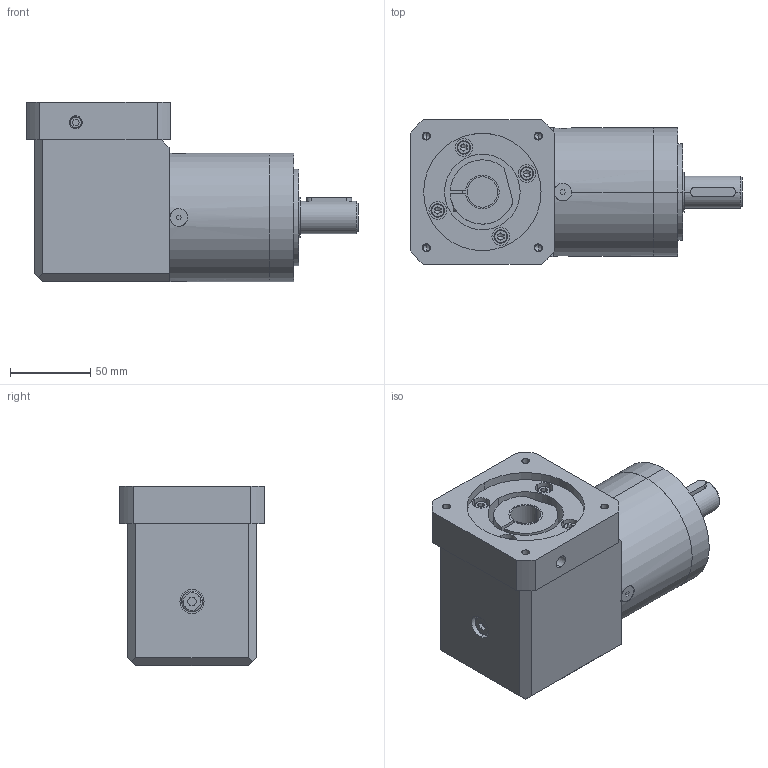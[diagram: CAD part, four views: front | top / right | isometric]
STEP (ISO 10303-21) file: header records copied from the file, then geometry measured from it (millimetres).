
FILE_DESCRIPTION (( 'STEP AP214' ), '1' );
FILE_NAME ('GBPNR-0802-CS-XXX-AA341-500.STEP', '2015-05-11T18:47:58', ( '' ), ( '' ), 'SwSTEP 2.0', 'SolidWorks 2015', '' );
FILE_SCHEMA (( 'AUTOMOTIVE_DESIGN' ));
Length unit declared in the file: inch
Products named in the file (4): socket head cap screw_am_B18.3.1M - 5 x 0.8 x 16 Hex SHCS -- 16SHX; AA341-500 adaptor plate for GBPN-080X series; WPLE80, 2 Stage, mb_3003; GBPNR-0802-CS-XXX-AA341-500
Assembly tree (6 placements, depth 2):
  GBPNR-0802-CS-XXX-AA341-500
    WPLE80, 2 Stage, mb_3003
    AA341-500 adaptor plate for GBPN-080X series
    socket head cap screw_am_B18.3.1M - 5 x 0.8 x 16 Hex SHCS -- 16SHX  x4
Bounding box: 206.5 x 90 x 111.7 mm (x, y, z)
Volume: 118485.8 mm3; surface area: 104260 mm2
Topology: 5 solids, 15 shells, 822 faces, 2067 edges, 1292 vertices
Faces by surface type: cone 342, cylinder 295, plane 171, torus 8, bspline 6
Entity records: 14177 total; most frequent: CARTESIAN_POINT 2789, DIRECTION 2220, ORIENTED_EDGE 1902, EDGE_CURVE 969, AXIS2_PLACEMENT_3D 873, VERTEX_POINT 623, LINE 474, VECTOR 474
